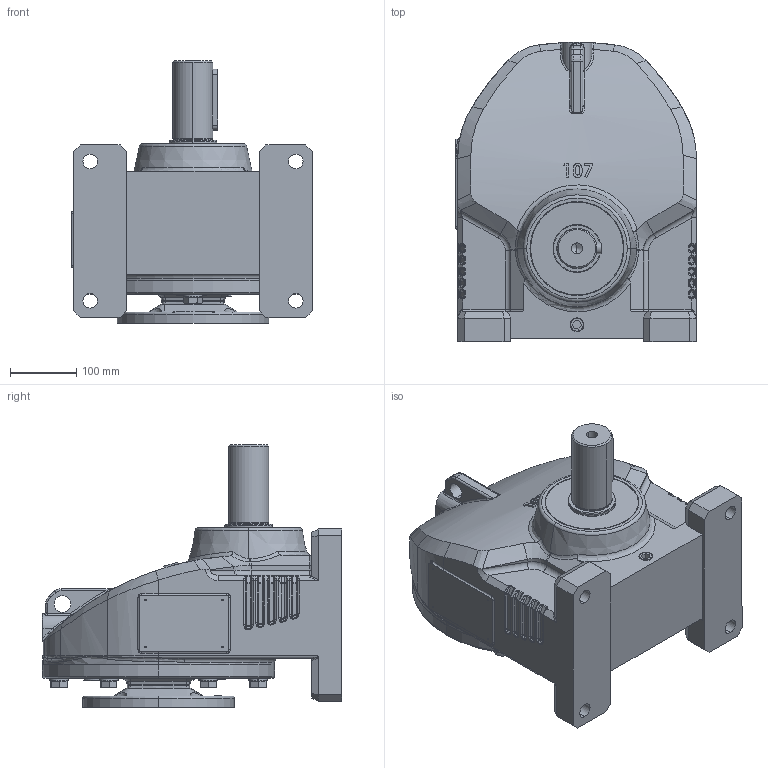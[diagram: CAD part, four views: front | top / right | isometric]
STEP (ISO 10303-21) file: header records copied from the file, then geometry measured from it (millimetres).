
FILE_DESCRIPTION (( 'STEP AP203' ), '1' );
FILE_NAME ('RX107HF-182TC.STEP', '2015-03-16T05:58:22', ( 'user' ), ( '' ), 'SwSTEP 2.0', 'SolidWorks 2012', '' );
FILE_SCHEMA (( 'CONFIG_CONTROL_DESIGN' ));
Products named in the file (26): RX107HF-182TC; JSPC060072005; PKD5_8092; PCA060_JIS B 2804 Shaft use 60; PBA6312_SKF - 6312 - 10,DE,NC,10_68; JKGB13798L_JKGB13798L; 107法蘭入力組合182TC_5HP-18; KNGH182T18_KNGH182T18; P105_JKGA1824R; PCA018_PCA018; PKD0606018; PBA6009_PBA6009; PWS16_JIS B 1251 No.2 16; PTBA16050_JIS B 1180 Continuous thread hexagon head bolt A M16 x 45 --N; PSS045060075; PTAA10035; KFGG182T; JHGA10703; PJB04; PSS072140121; PCB140; PKD1811030S; PCA065_JIS B 2804 Shaft use 65; PBA6313_SKF - 6313 - 10,DE,NC,10_68; KEGX107; JCHX107
Assembly tree (43 placements, depth 3):
  RX107HF-182TC
    JCHX107
    KEGX107
    PBA6313_SKF - 6313 - 10,DE,NC,10_68
    PCA065_JIS B 2804 Shaft use 65
    PKD1811030S
    PCB140
    PSS072140121
    PJB04  x4
    107法蘭入力組合182TC_5HP-18
      JHGA10703
      KFGG182T
      PTAA10035  x4
      PSS045060075
      PTBA16050_JIS B 1180 Continuous thread hexagon head bolt A M16 x 45 --N  x6
      PWS16_JIS B 1251 No.2 16  x6
      PBA6009_PBA6009  x2
      PKD0606018
      PCA018_PCA018
      P105_JKGA1824R
      KNGH182T18_KNGH182T18
      PJB04
    JKGB13798L_JKGB13798L
    PBA6312_SKF - 6312 - 10,DE,NC,10_68
    PCA060_JIS B 2804 Shaft use 60
    PKD5_8092
    JSPC060072005
Bounding box: 363 x 451 x 396 mm (x, y, z)
Volume: 11196840 mm3; surface area: 1909037 mm2
Topology: 42 solids, 42 shells, 2378 faces, 6417 edges, 4008 vertices
Faces by surface type: cylinder 721, plane 664, torus 354, bspline 278, cone 245, sphere 116
Entity records: 86111 total; most frequent: CARTESIAN_POINT 36126, ORIENTED_EDGE 10266, DIRECTION 9361, EDGE_CURVE 5133, AXIS2_PLACEMENT_3D 3826, VERTEX_POINT 3242, EDGE_LOOP 2183, CIRCLE 2084
